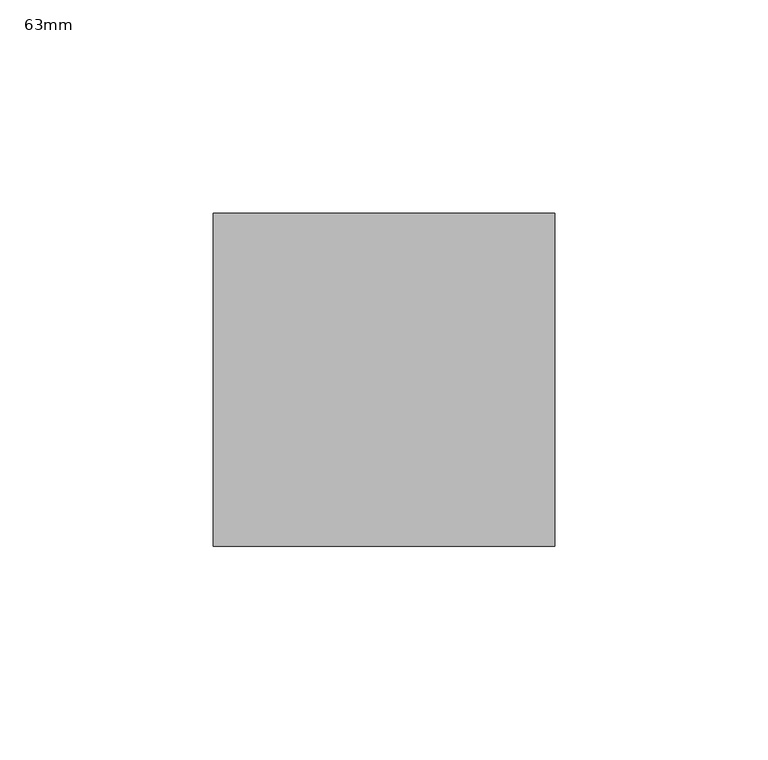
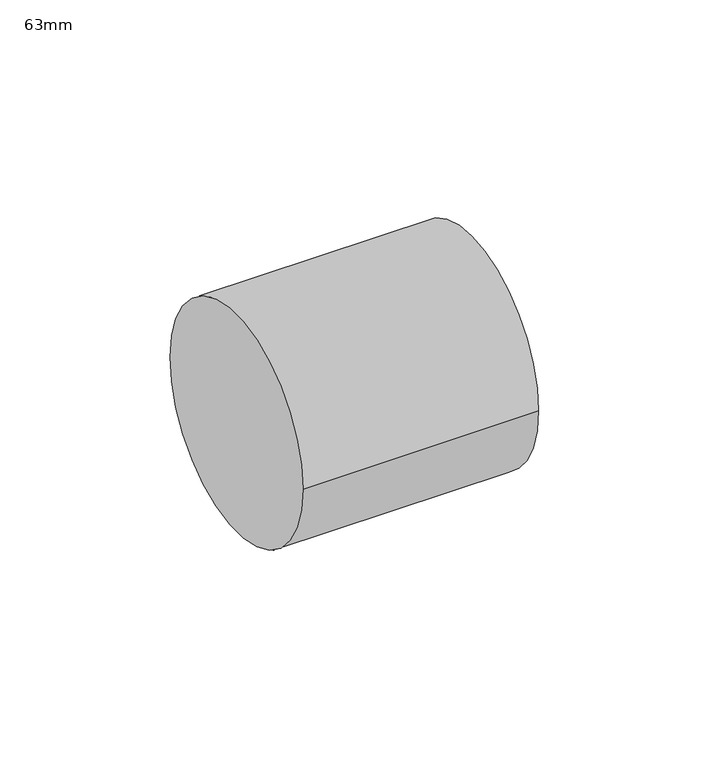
"""IFC4 building model written with IfcOpenShell, lengths in millimetres: pipe fitting geometry, PipeFitting_HTA_CPVC_Couplings : 63mm."""

from ifc_helpers import new_model, si_unit, point, frame, origin, origin_2d, place, context, project, spatial, circle_curve, trimmed, segment, composite_curve, outline, extrude, source, transform, mapped, element, save


def pipe_fitting_63mm_0936a796(model_context):
    return source(origin(), model_context, "Body", "SweptSolid", [
        extrude(outline(composite_curve([segment(trimmed(circle_curve(origin_2d(), 39.0), [point((-39.0, 0.0))], [point((39.0, 0.0))], False, "CARTESIAN"), True, "CONTINUOUS"), segment(trimmed(circle_curve(origin_2d(), 39.0), [point((39.0, 0.0))], [point((-39.0, 0.0))], False, "CARTESIAN"), True, "CONTINUOUS")], self_intersect=False)), frame((-40.0, 0.0, 0.0), z_axis=(1.0, 0.0, 0.0), x_axis=(0.0, 1.0, 0.0)), (0.0, 0.0, 1.0), 80.0),
    ])


if __name__ == "__main__":
    model = new_model("IFC4")
    model_context = context("Model", 3, world=origin())
    ifc_project = project(units=[si_unit("LENGTHUNIT", "METRE", prefix="MILLI")], contexts=[model_context])
    site = spatial("IfcSite", under=ifc_project)
    building = spatial("IfcBuilding", under=site)
    placement = place(None, origin())
    pipe_fitting_63mm_shape = pipe_fitting_63mm_0936a796(model_context)
    element("IfcPipeFitting", 1, ObjectType="PipeFitting_HTA_CPVC_Couplings : 63mm", at=placement, inside=building, context=model_context, shape_type="MappedRepresentation", body=[
        mapped(pipe_fitting_63mm_shape, transform((0.0, 0.0, 0.0), x_axis=(1.0, 0.0, 0.0), y_axis=(0.0, 1.0, 0.0), z_axis=(0.0, 0.0, 1.0))),
    ])
    save(model, "model.ifc")
